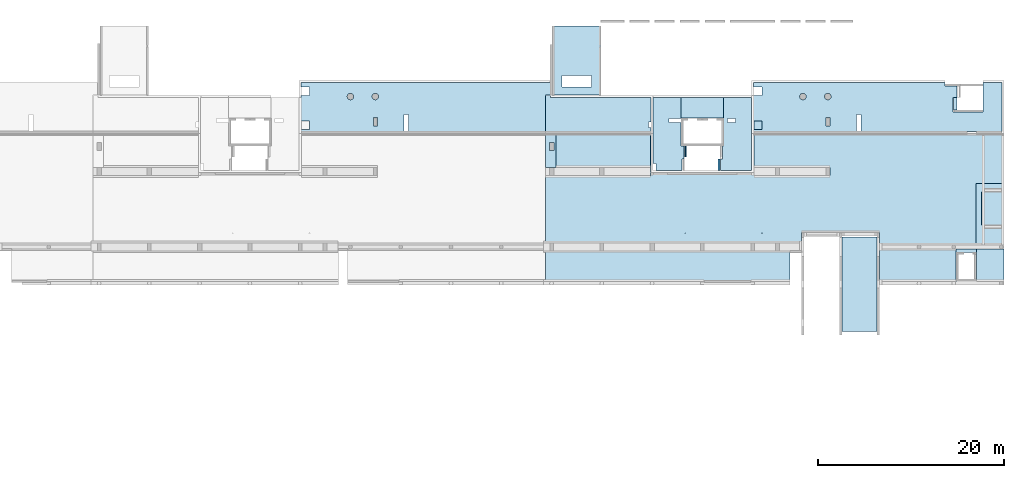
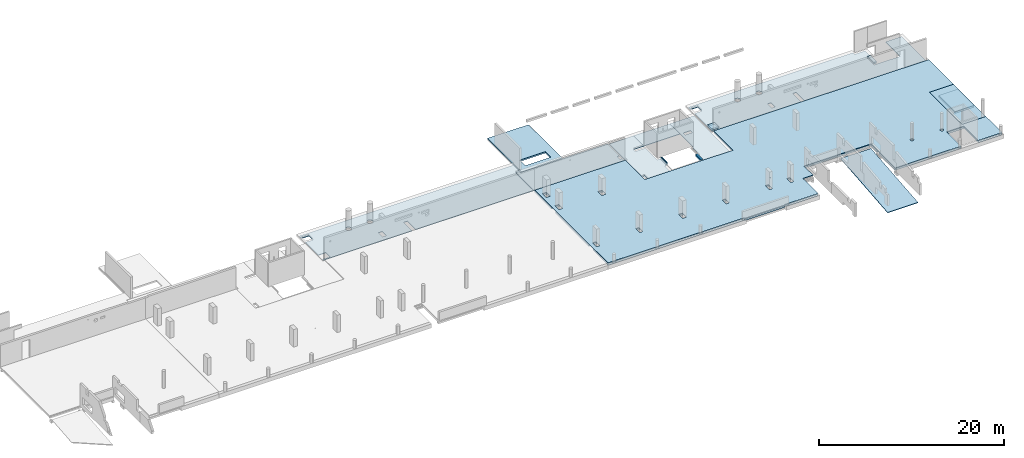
# One storey, part 5 of 10: 23 slabs, 25 openings.
"""IFC2X3 building model written with IfcOpenShell, lengths in millimetres."""

from ifc_helpers import new_model, entity, si_unit, converted_unit, derived_unit, direction, frame, frame_2d, origin, origin_2d_with_axis, place, context, subcontext, project, spatial, polyline, rectangle, circle, outline, extrude, clip, halfspace, material, layer, layer_set, layer_usage, element, save


model = new_model("IFC2X3")

# Units and contexts
model_context = context("Model", 3, precision=0.01, world=origin(), true_north=direction((6.12303176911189e-17, 1.0)))
body_context = subcontext(model_context, "Body", "Model", "MODEL_VIEW")
ifc_project = project(units=[si_unit("LENGTHUNIT", "METRE", prefix="MILLI"), si_unit("AREAUNIT", "SQUARE_METRE"), si_unit("VOLUMEUNIT", "CUBIC_METRE"), converted_unit("PLANEANGLEUNIT", "DEGREE", entity("IfcRatioMeasure", 0.0174532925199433), si_unit("PLANEANGLEUNIT", "RADIAN"), dimensions=[0, 0, 0, 0, 0, 0, 0]), si_unit("MASSUNIT", "GRAM", prefix="KILO"), derived_unit("MASSDENSITYUNIT", [(si_unit("MASSUNIT", "GRAM", prefix="KILO"), 1), (si_unit("LENGTHUNIT", "METRE"), -3)]), si_unit("TIMEUNIT", "SECOND"), si_unit("FREQUENCYUNIT", "HERTZ"), si_unit("THERMODYNAMICTEMPERATUREUNIT", "DEGREE_CELSIUS"), derived_unit("THERMALTRANSMITTANCEUNIT", [(si_unit("MASSUNIT", "GRAM", prefix="KILO"), 1), (si_unit("THERMODYNAMICTEMPERATUREUNIT", "KELVIN"), -1), (si_unit("TIMEUNIT", "SECOND"), -3)]), derived_unit("VOLUMETRICFLOWRATEUNIT", [(si_unit("LENGTHUNIT", "METRE"), 3), (si_unit("TIMEUNIT", "SECOND"), -1)]), si_unit("ELECTRICCURRENTUNIT", "AMPERE"), si_unit("ELECTRICVOLTAGEUNIT", "VOLT"), si_unit("POWERUNIT", "WATT"), si_unit("FORCEUNIT", "NEWTON", prefix="KILO"), si_unit("ILLUMINANCEUNIT", "LUX"), si_unit("LUMINOUSFLUXUNIT", "LUMEN"), si_unit("LUMINOUSINTENSITYUNIT", "CANDELA"), derived_unit("USERDEFINED", [(si_unit("MASSUNIT", "GRAM", prefix="KILO"), -1), (si_unit("LENGTHUNIT", "METRE"), -2), (si_unit("TIMEUNIT", "SECOND"), 3), (si_unit("LUMINOUSFLUXUNIT", "LUMEN"), 1)]), derived_unit("LINEARVELOCITYUNIT", [(si_unit("LENGTHUNIT", "METRE"), 1), (si_unit("TIMEUNIT", "SECOND"), -1)]), si_unit("PRESSUREUNIT", "PASCAL"), derived_unit("USERDEFINED", [(si_unit("LENGTHUNIT", "METRE"), -2), (si_unit("MASSUNIT", "GRAM", prefix="KILO"), 1), (si_unit("TIMEUNIT", "SECOND"), -2)])], contexts=[model_context])

# Site, building, storey
site_placement = place(None, origin())
site = spatial("IfcSite", under=ifc_project, at=site_placement, Name="Default", CompositionType="ELEMENT")
building_placement = place(site_placement, origin())
building = spatial("IfcBuilding", under=site, at=building_placement, Name="niet gebruiken", CompositionType="ELEMENT")
storey_placement = place(building_placement, frame((0.0, 0.0, 9410.0)))
storey = spatial("IfcBuildingStorey", under=building, at=storey_placement, Name="02b tweede tussenverdieping", CompositionType="ELEMENT", Elevation=9409.99999999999)

# Slab
ifc_material_1 = material(Name="NLRS_f2_beton prefab")
ifc_layer_1 = layer(ifc_material_1, 255.0)
ifc_layer_set_1 = layer_set([ifc_layer_1], Name="Floor:NLRS_23.21_FL_kanaalplaat d=255_gen")
ifc_layer_usage_1 = layer_usage(ifc_layer_set_1, "AXIS3", "POSITIVE", 0.0)
slab_1_placement = place(storey_placement, origin())
element("IfcSlab", 1, at=slab_1_placement, inside=storey, material=ifc_layer_usage_1, Name="Floor:NLRS_23.21_FL_kanaalplaat d=255_gen", ObjectType="Floor:NLRS_23.21_FL_kanaalplaat d=255_gen", PredefinedType="FLOOR", context=body_context, shape_type="SweptSolid", body=[
    extrude(outline(polyline([(-791.250000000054, -16323.7500000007), (2448.74999999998, -16323.7500000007), (2448.74999999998, 9911.25000000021), (-791.250000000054, 9911.25000000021), (-791.250000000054, 5686.24999999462), (-866.249999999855, 5686.24999999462), (-866.249999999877, 726.250000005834), (-791.250000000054, 726.250000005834), (-791.250000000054, -16323.7500000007)])), frame((91293.7499999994, 25987.25, -70.0), z_axis=(0.0, 0.0, -1.0), x_axis=(0.0, 1.0, 0.0)), (0.0, 0.0, 1.0), 255.000000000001),
])

# Slab, openings
ifc_material_2 = material(Name="NLRS_f2_beton ihwg")
ifc_layer_2 = layer(ifc_material_2, 70.0)
ifc_layer_set_2 = layer_set([ifc_layer_2], Name="Floor:NLRS_23.21_FL_druklaag d=70 - gevlinderd en ingestrooid_gen")
ifc_layer_usage_2 = layer_usage(ifc_layer_set_2, "AXIS3", "POSITIVE", 0.0)
slab_2_placement = place(storey_placement, frame((74970.0, 25101.0, -70.0)))
slab_2 = element("IfcSlab", 2, at=slab_2_placement, inside=storey, material=ifc_layer_usage_2, Name="Floor:NLRS_23.21_FL_druklaag d=70 - gevlinderd en ingestrooid_gen", ObjectType="Floor:NLRS_23.21_FL_druklaag d=70 - gevlinderd en ingestrooid_gen", PredefinedType="FLOOR", context=body_context, shape_type="SweptSolid", body=[
    extrude(outline(polyline([(24615.0, -7885.0), (24615.0, 7980.0), (13310.0, 7980.0), (13310.0, 3775.0), (2260.0, 3775.0), (2260.0, 7980.0), (-24615.0, 7980.0), (-24615.0, 2624.0), (-21615.0, 2624.0), (-21615.0, -4400.0), (-24615.0, -4400.0), (-24615.0, -7905.0), (-21640.0, -7905.0), (-21640.0, -4775.0), (-19490.0, -4775.0), (-19490.0, -7905.0), (-11260.0, -7905.0), (-11260.0, -2655.0), (-2890.0, -2655.0), (-2890.0, -4625.0), (-1620.0, -4625.0), (-1620.0, -7905.0), (2585.0, -7905.0), (2585.0, -7980.0), (7585.0, -7980.0), (7585.0, -7885.0), (24615.0, -7885.0)])), frame((24615.0, 7980.0, 70.0), z_axis=(0.0, 0.0, -1.0), x_axis=(-1.0, 0.0, 0.0)), (0.0, 0.0, 1.0), 70.0000000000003),
])
opening_1_placement = place(storey_placement, frame((74970.0, 25101.0, -70.0)))
element("IfcOpeningElement", 3, at=opening_1_placement, cuts=slab_2, ObjectType="Opening", context=body_context, shape_type="SweptSolid", body=[
    extrude(circle(Radius=37.5, at=frame_2d((1385.0, -2725.0), x_axis=(1.0, 0.0))), frame((24615.0, 7980.0, 70.0), z_axis=(0.0, 0.0, -1.0), x_axis=(-1.0, 0.0, 0.0)), (0.0, 0.0, 1.0), 70.0000000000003),
])
opening_2_placement = place(storey_placement, frame((74970.0, 25101.0, -70.0)))
element("IfcOpeningElement", 4, at=opening_2_placement, cuts=slab_2, ObjectType="Opening", context=body_context, shape_type="SweptSolid", body=[
    extrude(circle(Radius=37.5, at=frame_2d((9635.0, -2725.0), x_axis=(1.0, 0.0))), frame((24615.0, 7980.0, 70.0), z_axis=(0.0, 0.0, -1.0), x_axis=(-1.0, 0.0, 0.0)), (0.0, 0.0, 1.0), 70.0000000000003),
])
opening_3_placement = place(slab_2_placement, frame((655.0, 14555.0, 70.0)))
element("IfcOpeningElement", 5, at=opening_3_placement, cuts=slab_2, Name="Floor:NLRS_23.21_FL_druklaag d=70 - gevlinderd en ingestrooid_gen:2", ObjectType="Opening", context=body_context, shape_type="SweptSolid", body=[
    extrude(rectangle(XDim=849.999999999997, YDim=499.999999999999, at=origin_2d_with_axis()), frame((0.0, 0.0, 0.0), z_axis=(0.0, 0.0, -1.0), x_axis=(0.0, -1.0, 0.0)), (0.0, 0.0, 1.0), 70.0000000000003),
])
opening_4_placement = place(slab_2_placement, frame((655.0, 11880.0, 70.0)))
element("IfcOpeningElement", 6, at=opening_4_placement, cuts=slab_2, Name="Floor:NLRS_23.21_FL_druklaag d=70 - gevlinderd en ingestrooid_gen:3", ObjectType="Opening", context=body_context, shape_type="SweptSolid", body=[
    extrude(rectangle(XDim=850.000000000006, YDim=499.999999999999, at=origin_2d_with_axis()), frame((0.0, 0.0, 0.0), z_axis=(0.0, 0.0, -1.0), x_axis=(0.0, -1.0, 0.0)), (0.0, 0.0, 1.0), 70.0000000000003),
])
opening_5_placement = place(slab_2_placement, frame((6030.0, 11880.0, 70.0)))
element("IfcOpeningElement", 7, at=opening_5_placement, cuts=slab_2, Name="Floor:NLRS_23.21_FL_druklaag d=70 - gevlinderd en ingestrooid_gen:4", ObjectType="Opening", context=body_context, shape_type="SweptSolid", body=[
    extrude(rectangle(XDim=850.000000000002, YDim=500.000000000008, at=origin_2d_with_axis()), frame((0.0, 0.0, 0.0), z_axis=(0.0, 0.0, -1.0), x_axis=(0.0, -1.0, 0.0)), (0.0, 0.0, 1.0), 70.0000000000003),
])
opening_6_placement = place(slab_2_placement, frame((655.0, 3780.0, 70.0)))
element("IfcOpeningElement", 8, at=opening_6_placement, cuts=slab_2, Name="Floor:NLRS_23.21_FL_druklaag d=70 - gevlinderd en ingestrooid_gen:5", ObjectType="Opening", context=body_context, shape_type="SweptSolid", body=[
    extrude(rectangle(XDim=850.000000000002, YDim=399.999999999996, at=origin_2d_with_axis()), frame((0.0, 0.0, 0.0), z_axis=(0.0, 0.0, -1.0), x_axis=(0.0, -1.0, 0.0)), (0.0, 0.0, 1.0), 70.0000000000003),
])
opening_7_placement = place(slab_2_placement, frame((6030.0, 3780.0, 70.0)))
element("IfcOpeningElement", 9, at=opening_7_placement, cuts=slab_2, Name="Floor:NLRS_23.21_FL_druklaag d=70 - gevlinderd en ingestrooid_gen:6", ObjectType="Opening", context=body_context, shape_type="SweptSolid", body=[
    extrude(rectangle(XDim=850.000000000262, YDim=400.000000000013, at=origin_2d_with_axis()), frame((0.0, 0.0, 0.0), z_axis=(0.0, 0.0, 1.0), x_axis=(0.0, -1.0, 0.0)), (0.0, 0.0, -1.0), 70.0000000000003),
])
opening_8_placement = place(slab_2_placement, frame((11430.0, 3780.0, 70.0)))
element("IfcOpeningElement", 10, at=opening_8_placement, cuts=slab_2, Name="Floor:NLRS_23.21_FL_druklaag d=70 - gevlinderd en ingestrooid_gen:7", ObjectType="Opening", context=body_context, shape_type="SweptSolid", body=[
    extrude(rectangle(XDim=849.999999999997, YDim=500.000000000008, at=origin_2d_with_axis()), frame((0.0, 0.0, 0.0), z_axis=(0.0, 0.0, -1.0), x_axis=(0.0, -1.0, 0.0)), (0.0, 0.0, 1.0), 70.0000000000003),
])
opening_9_placement = place(slab_2_placement, frame((16830.0, 3780.0, 70.0)))
element("IfcOpeningElement", 11, at=opening_9_placement, cuts=slab_2, Name="Floor:NLRS_23.21_FL_druklaag d=70 - gevlinderd en ingestrooid_gen:8", ObjectType="Opening", context=body_context, shape_type="SweptSolid", body=[
    extrude(rectangle(XDim=849.999999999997, YDim=400.000000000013, at=origin_2d_with_axis()), frame((0.0, 0.0, 0.0), z_axis=(0.0, 0.0, -1.0), x_axis=(0.0, -1.0, 0.0)), (0.0, 0.0, 1.0), 70.0000000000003),
])
opening_10_placement = place(slab_2_placement, frame((22230.0, 3780.0, 70.0)))
element("IfcOpeningElement", 12, at=opening_10_placement, cuts=slab_2, Name="Floor:NLRS_23.21_FL_druklaag d=70 - gevlinderd en ingestrooid_gen:9", ObjectType="Opening", context=body_context, shape_type="SweptSolid", body=[
    extrude(rectangle(XDim=850.00000000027, YDim=399.999999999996, at=origin_2d_with_axis()), frame((0.0, 0.0, 0.0), z_axis=(0.0, 0.0, 1.0), x_axis=(0.0, -1.0, 0.0)), (0.0, 0.0, -1.0), 70.0000000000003),
])
opening_11_placement = place(slab_2_placement, frame((24905.0, 3780.0, 70.0)))
element("IfcOpeningElement", 13, at=opening_11_placement, cuts=slab_2, Name="Floor:NLRS_23.21_FL_druklaag d=70 - gevlinderd en ingestrooid_gen:10", ObjectType="Opening", context=body_context, shape_type="SweptSolid", body=[
    extrude(rectangle(XDim=849.999999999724, YDim=399.999999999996, at=origin_2d_with_axis()), frame((0.0, 0.0, 0.0), z_axis=(0.0, 0.0, -1.0), x_axis=(0.0, -1.0, 0.0)), (0.0, 0.0, 1.0), 70.0000000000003),
])
opening_12_placement = place(slab_2_placement, frame((43830.0, 3780.0, 70.0)))
element("IfcOpeningElement", 14, at=opening_12_placement, cuts=slab_2, Name="Floor:NLRS_23.21_FL_druklaag d=70 - gevlinderd en ingestrooid_gen:11", ObjectType="Opening", context=body_context, shape_type="SweptSolid", body=[
    extrude(circle(Radius=200.0, at=origin_2d_with_axis()), frame((0.0, 0.0, 0.0), z_axis=(0.0, 0.0, -1.0), x_axis=(1.0, 0.0, 0.0)), (0.0, 0.0, 1.0), 70.0000000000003),
])
opening_13_placement = place(slab_2_placement, frame((40105.0, 3780.0, 70.0)))
element("IfcOpeningElement", 15, at=opening_13_placement, cuts=slab_2, Name="Floor:NLRS_23.21_FL_druklaag d=70 - gevlinderd en ingestrooid_gen:12", ObjectType="Opening", context=body_context, shape_type="SweptSolid", body=[
    extrude(circle(Radius=200.0, at=origin_2d_with_axis()), frame((0.0, 0.0, 0.0), z_axis=(0.0, 0.0, -1.0), x_axis=(1.0, 0.0, 0.0)), (0.0, 0.0, 1.0), 70.0000000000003),
])

# Slab
ifc_layer_usage_3 = layer_usage(ifc_layer_set_1, "AXIS3", "POSITIVE", 0.0)
slab_3_placement = place(storey_placement, frame((74970.0, 29101.0, -325.0)))
element("IfcSlab", 16, at=slab_3_placement, inside=storey, material=ifc_layer_usage_3, Name="Floor:NLRS_23.21_FL_kanaalplaat d=255_gen", ObjectType="Floor:NLRS_23.21_FL_kanaalplaat d=255_gen", PredefinedType="FLOOR", context=body_context, shape_type="SweptSolid", body=[
    extrude(rectangle(XDim=10200.0000000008, YDim=3615.00000000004, at=frame_2d((18430.0, 4162.49999999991), x_axis=(-1.0, 0.0))), frame((24615.0, 5970.0, 255.0), z_axis=(0.0, 0.0, -1.0), x_axis=(-1.0, 0.0, 0.0)), (0.0, 0.0, 1.0), 255.000000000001),
])

# Slab, openings
slab_4_placement = place(storey_placement, frame((74970.0, 29101.0, -325.0)))
slab_4 = element("IfcSlab", 17, at=slab_4_placement, inside=storey, material=ifc_layer_usage_3, Name="Floor:NLRS_23.21_FL_kanaalplaat d=255_gen:2", ObjectType="Floor:NLRS_23.21_FL_kanaalplaat d=255_gen", PredefinedType="FLOOR", context=body_context, shape_type="SweptSolid", body=[
    extrude(outline(polyline([(-2870.0, -5745.0), (24615.0, -5745.0), (24615.0, 1465.0), (13310.0, 1465.0), (13310.0, 1765.0), (2260.0, 1765.0), (2260.0, 1465.0), (-5934.86878208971, 1465.0), (-5934.86878208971, 2355.0), (2240.0, 2355.0), (2240.0, 5970.0), (-24615.0, 5970.0), (-24615.0, 34.0), (-22215.0, 34.0), (-22215.0, -3926.0), (-24615.0, -3926.0), (-24615.0, -5970.0), (-11260.0, -5970.0), (-11260.0, -4615.0), (-2870.0, -4615.0), (-2870.0, -5745.0)])), frame((24615.0, 5970.0, 255.0), z_axis=(0.0, 0.0, -1.0), x_axis=(-1.0, 0.0, 0.0)), (0.0, 0.0, 1.0), 255.000000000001),
])
opening_14_placement = place(storey_placement, frame((74970.0, 29101.0, -325.0)))
element("IfcOpeningElement", 18, at=opening_14_placement, cuts=slab_4, ObjectType="Opening", context=body_context, shape_type="SweptSolid", body=[
    extrude(circle(Radius=37.5, at=frame_2d((1385.0, -4715.0), x_axis=(1.0, 0.0))), frame((24615.0, 5970.0, 255.0), z_axis=(0.0, 0.0, -1.0), x_axis=(-1.0, 0.0, 0.0)), (0.0, 0.0, 1.0), 255.000000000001),
])
opening_15_placement = place(storey_placement, frame((74970.0, 29101.0, -325.0)))
element("IfcOpeningElement", 19, at=opening_15_placement, cuts=slab_4, ObjectType="Opening", context=body_context, shape_type="SweptSolid", body=[
    extrude(circle(Radius=37.5, at=frame_2d((9635.0, -4715.0), x_axis=(1.0, 0.0))), frame((24615.0, 5970.0, 255.0), z_axis=(0.0, 0.0, -1.0), x_axis=(-1.0, 0.0, 0.0)), (0.0, 0.0, 1.0), 255.000000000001),
])

# Slabs
ifc_layer_usage_4 = layer_usage(ifc_layer_set_1, "AXIS3", "POSITIVE", 0.0)
slab_5_placement = place(storey_placement, frame((110845.0, 25201.0, -325.0)))
element("IfcSlab", 20, at=slab_5_placement, inside=storey, material=ifc_layer_usage_4, Name="Floor:NLRS_23.21_FL_kanaalplaat d=255_gen", ObjectType="Floor:NLRS_23.21_FL_kanaalplaat d=255_gen", PredefinedType="FLOOR", context=body_context, shape_type="SweptSolid", body=[
    extrude(rectangle(XDim=3460.00000000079, YDim=8210.00000000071, at=frame_2d((2572.49999999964, 0.0), x_axis=(0.0, 1.0))), frame((6677.5, 1730.0, 255.0), z_axis=(0.0, 0.0, -1.0), x_axis=(-1.0, 0.0, 0.0)), (0.0, 0.0, 1.0), 255.000000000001),
])
slab_6_placement = place(storey_placement, frame((110845.0, 25201.0, -325.0)))
element("IfcSlab", 21, at=slab_6_placement, inside=storey, material=ifc_layer_usage_4, Name="Floor:NLRS_23.21_FL_kanaalplaat d=255_gen:2", ObjectType="Floor:NLRS_23.21_FL_kanaalplaat d=255_gen", PredefinedType="FLOOR", context=body_context, shape_type="SweptSolid", body=[
    extrude(rectangle(XDim=2954.99999999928, YDim=3460.00000000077, at=frame_2d((-5200.0, 0.0), x_axis=(1.0, 0.0))), frame((6677.5, 1730.0, 255.0), z_axis=(0.0, 0.0, -1.0), x_axis=(-1.0, 0.0, 0.0)), (0.0, 0.0, 1.0), 255.000000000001),
])
ifc_layer_3 = layer(ifc_material_2, 260.0)
ifc_layer_set_3 = layer_set([ifc_layer_3], Name="Floor:NLRS_23.21_FL_beton ihwg d=260_gen")
ifc_layer_usage_5 = layer_usage(ifc_layer_set_3, "AXIS3", "POSITIVE", 0.0)
slab_7_placement = place(storey_placement, origin())
element("IfcSlab", 22, at=slab_7_placement, inside=storey, material=ifc_layer_usage_5, Name="Floor:NLRS_23.21_FL_beton ihwg d=260_gen", ObjectType="Floor:NLRS_23.21_FL_beton ihwg d=260_gen", PredefinedType="FLOOR", context=body_context, shape_type="SweptSolid", body=[
    extrude(rectangle(XDim=374.999999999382, YDim=2190.0, at=frame_2d((0.0, -8.64019966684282e-12), x_axis=(1.0, 0.0))), frame((120150.0, 28493.5000000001, -70.0), z_axis=(0.0, 0.0, -1.0), x_axis=(0.0, 1.0, 0.0)), (0.0, 0.0, 1.0), 260.0),
])
ifc_layer_4 = layer(ifc_material_2, 200.0)
ifc_layer_5 = layer(ifc_material_1, 50.0)
ifc_layer_set_4 = layer_set([ifc_layer_4, ifc_layer_5], Name="Floor:NLRS_23.21_FL_breedplaat d=50/250_gen")
ifc_layer_usage_6 = layer_usage(ifc_layer_set_4, "AXIS3", "POSITIVE", 0.0)
slab_8_placement = place(storey_placement, origin())
element("IfcSlab", 23, at=slab_8_placement, inside=storey, material=ifc_layer_usage_6, Name="Floor:NLRS_23.21_FL_breedplaat d=50/250_gen", ObjectType="Floor:NLRS_23.21_FL_breedplaat d=50/250_gen", PredefinedType="FLOOR", context=body_context, shape_type="SweptSolid", body=[
    extrude(rectangle(XDim=1349.99999999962, YDim=339.999999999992, at=frame_2d((-4.32009983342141e-12, 0.0), x_axis=(1.0, 0.0))), frame((118970.0, 44251.0, 0.0), z_axis=(0.0, 0.0, -1.0), x_axis=(0.0, 1.0, 0.0)), (0.0, 0.0, 1.0), 249.999999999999),
])
ifc_layer_6 = layer(ifc_material_1, 70.0)
ifc_layer_set_5 = layer_set([ifc_layer_6], Name="Floor:NLRS_23.21_FL_breedplaatschil d=70_gen")
ifc_layer_usage_7 = layer_usage(ifc_layer_set_5, "AXIS3", "POSITIVE", 0.0)
slab_9_placement = place(storey_placement, frame((86505.0, 37086.0, -340.0)))
element("IfcSlab", 24, at=slab_9_placement, inside=storey, material=ifc_layer_usage_7, Name="Floor:NLRS_23.21_FL_breedplaatschil d=70_gen", ObjectType="Floor:NLRS_23.21_FL_breedplaatschil d=70_gen", PredefinedType="FLOOR", context=body_context, shape_type="SweptSolid", body=[
    extrude(outline(polyline([(2295.00015089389, 1250.0), (2295.00015089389, -1280.0), (1950.0, -1280.0), (1950.0, -2700.0), (2200.00021676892, -2700.0), (2200.00021676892, -3920.0), (4975.0, -3920.0), (4975.0, -3180.0), (5295.0, -3180.0), (5295.0, 3920.0), (2275.0001508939, 3920.0), (2275.0001508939, 1690.0), (3572.50015089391, 1690.0), (3572.50015089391, 1250.0), (2295.00015089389, 1250.0)])), frame((5295.0, 3920.0, 70.0), z_axis=(0.0, 0.0, -1.0), x_axis=(-1.0, 0.0, 0.0)), (0.0, 0.0, 1.0), 70.0000000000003),
])

# Slab, opening
slab_10_placement = place(storey_placement, frame((86505.0, 37086.0, -340.0)))
slab_10 = element("IfcSlab", 25, at=slab_10_placement, inside=storey, material=ifc_layer_usage_7, Name="Floor:NLRS_23.21_FL_breedplaatschil d=70_gen:2", ObjectType="Floor:NLRS_23.21_FL_breedplaatschil d=70_gen", PredefinedType="FLOOR", context=body_context, shape_type="SweptSolid", body=[
    extrude(outline(polyline([(-2274.99984910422, 1690.0), (-2274.99984910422, 3920.0), (-5295.0, 3920.0), (-5295.0, -3920.0), (-1949.99978323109, -3920.0), (-1949.99978323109, -2700.0), (-2170.0, -2700.0), (-2170.0, -1280.0), (-2294.99984910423, -1280.0), (-2294.99984910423, 1690.0), (-2274.99984910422, 1690.0)])), frame((5295.0, 3920.0, 70.0), z_axis=(0.0, 0.0, -1.0), x_axis=(-1.0, 0.0, 0.0)), (0.0, 0.0, 1.0), 70.0000000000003),
])
opening_16_placement = place(slab_9_placement, frame((8425.0, 5390.0, 70.0)))
element("IfcOpeningElement", 26, at=opening_16_placement, cuts=slab_10, Name="Floor:NLRS_23.21_FL_breedplaatschil d=70_gen:2", ObjectType="Opening", context=body_context, shape_type="SweptSolid", body=[
    extrude(rectangle(XDim=900.000000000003, YDim=450.000000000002, at=origin_2d_with_axis()), frame((0.0, 0.0, 0.0), z_axis=(0.0, 0.0, -1.0), x_axis=(-1.0, 0.0, 0.0)), (0.0, 0.0, 1.0), 70.0000000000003),
])

# Slab
ifc_layer_usage_8 = layer_usage(ifc_layer_set_5, "AXIS3", "POSITIVE", 0.0)
slab_11_placement = place(storey_placement, origin())
element("IfcSlab", 27, at=slab_11_placement, inside=storey, material=ifc_layer_usage_8, Name="Floor:NLRS_23.21_FL_breedplaatschil d=70_gen", ObjectType="Floor:NLRS_23.21_FL_breedplaatschil d=70_gen", PredefinedType="FLOOR", context=body_context, shape_type="SweptSolid", body=[
    extrude(rectangle(XDim=2209.99999999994, YDim=4549.9999999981, at=frame_2d((4.32009983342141e-12, 0.0), x_axis=(1.0, 0.0))), frame((91800.0, 43821.0, -270.0), z_axis=(0.0, 0.0, -1.0), x_axis=(0.0, 1.0, 0.0)), (0.0, 0.0, 1.0), 70.0000000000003),
])

# Slab, openings
ifc_layer_usage_9 = layer_usage(ifc_layer_set_5, "AXIS3", "POSITIVE", 0.0)
slab_12_placement = place(storey_placement, frame((48705.0, 41291.0, -250.0)))
slab_12 = element("IfcSlab", 28, at=slab_12_placement, inside=storey, material=ifc_layer_usage_9, Name="Floor:NLRS_23.21_FL_breedplaatschil d=70_gen", ObjectType="Floor:NLRS_23.21_FL_breedplaatschil d=70_gen", PredefinedType="FLOOR", context=body_context, shape_type="SweptSolid", body=[
    extrude(outline(polyline([(-13382.5000000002, 2612.4999999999), (-13382.5000000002, 1272.49999999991), (-12862.4999999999, 1272.49999999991), (-12862.4999999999, -2612.4999999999), (1862.49999999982, -2612.4999999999), (1862.49999999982, -792.499999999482), (2312.49999999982, -792.499999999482), (2312.49999999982, -2612.4999999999), (13382.5000000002, -2612.4999999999), (13382.5000000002, -2417.49999999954), (12462.4999999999, -2417.49999999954), (12462.4999999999, -1517.49999999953), (13382.5000000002, -1517.49999999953), (13382.5000000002, 1252.50000000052), (12462.5000000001, 1252.50000000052), (12462.5000000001, 2152.50000000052), (13382.5000000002, 2152.50000000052), (13382.5000000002, 2612.4999999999), (-13382.5000000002, 2612.4999999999)])), frame((13382.5000000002, 2612.4999999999, 70.0), z_axis=(0.0, 0.0, -1.0), x_axis=(-1.0, 0.0, 0.0)), (0.0, 0.0, 1.0), 70.0000000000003),
])
opening_17_placement = place(slab_12_placement, frame((7970.0, 1040.0, 70.0)))
element("IfcOpeningElement", 29, at=opening_17_placement, cuts=slab_12, Name="Floor:NLRS_23.21_FL_breedplaatschil d=70_gen:2", ObjectType="Opening", context=body_context, shape_type="SweptSolid", body=[
    extrude(rectangle(XDim=440.000000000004, YDim=890.000000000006, at=origin_2d_with_axis()), frame((0.0, 0.0, 0.0), z_axis=(0.0, 0.0, -1.0), x_axis=(1.0, 0.0, 0.0)), (0.0, 0.0, 1.0), 70.0000000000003),
])
opening_18_placement = place(slab_12_placement, frame((7970.0, 3740.0, 70.0)))
element("IfcOpeningElement", 30, at=opening_18_placement, cuts=slab_12, Name="Floor:NLRS_23.21_FL_breedplaatschil d=70_gen:3", ObjectType="Opening", context=body_context, shape_type="SweptSolid", body=[
    extrude(circle(Radius=345.0, at=origin_2d_with_axis()), frame((0.0, 0.0, 0.0), z_axis=(0.0, 0.0, -1.0), x_axis=(1.0, 0.0, 0.0)), (0.0, 0.0, 1.0), 70.0000000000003),
])
opening_19_placement = place(slab_12_placement, frame((5295.0, 3740.0, 70.0)))
element("IfcOpeningElement", 31, at=opening_19_placement, cuts=slab_12, Name="Floor:NLRS_23.21_FL_breedplaatschil d=70_gen:4", ObjectType="Opening", context=body_context, shape_type="SweptSolid", body=[
    extrude(circle(Radius=345.0, at=origin_2d_with_axis()), frame((0.0, 0.0, 0.0), z_axis=(0.0, 0.0, -1.0), x_axis=(1.0, 0.0, 0.0)), (0.0, 0.0, 1.0), 70.0000000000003),
])

# Slab, opening
ifc_layer_usage_10 = layer_usage(ifc_layer_set_5, "AXIS3", "POSITIVE", 0.0)
slab_13_placement = place(storey_placement, frame((74970.0, 41291.0, -250.0)))
slab_13 = element("IfcSlab", 32, at=slab_13_placement, inside=storey, material=ifc_layer_usage_10, Name="Floor:NLRS_23.21_FL_breedplaatschil d=70_gen", ObjectType="Floor:NLRS_23.21_FL_breedplaatschil d=70_gen", PredefinedType="FLOOR", context=body_context, shape_type="SweptSolid", body=[
    extrude(outline(polyline([(5662.49999999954, 1932.49999999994), (5162.49999999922, 1932.49999999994), (5162.49999999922, 1702.49999999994), (-5662.49999999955, 1702.49999999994), (-5662.49999999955, -1932.49999999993), (5662.49999999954, -1932.49999999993), (5662.49999999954, 1932.49999999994)])), frame((5662.49999999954, 1932.49999999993, 70.0), z_axis=(0.0, 0.0, -1.0), x_axis=(-1.0, 0.0, 0.0)), (0.0, 0.0, 1.0), 70.0000000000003),
])
opening_20_placement = place(slab_13_placement, origin())
element("IfcOpeningElement", 33, at=opening_20_placement, cuts=slab_13, ObjectType="Opening", context=body_context, shape_type="SweptSolid", body=[
    extrude(rectangle(XDim=259.999999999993, YDim=614.999999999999, at=origin_2d_with_axis()), frame((11174.9995330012, 720.099707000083, 0.0), z_axis=(0.0, 0.0, 1.0), x_axis=(-1.0, 0.0, 0.0)), (0.0, 0.0, 1.0), 249.999999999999),
])

# Slab, openings
ifc_layer_usage_11 = layer_usage(ifc_layer_set_5, "AXIS3", "POSITIVE", 0.0)
slab_14_placement = place(storey_placement, frame((97305.0, 41291.0, -250.0)))
slab_14 = element("IfcSlab", 34, at=slab_14_placement, inside=storey, material=ifc_layer_usage_11, Name="Floor:NLRS_23.21_FL_breedplaatschil d=70_gen", ObjectType="Floor:NLRS_23.21_FL_breedplaatschil d=70_gen", PredefinedType="FLOOR", context=body_context, shape_type="SweptSolid", body=[
    extrude(outline(polyline([(-7222.49999999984, 2612.4999999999), (-7222.49999999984, 2252.50000000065), (-8537.50000000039, 2252.50000000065), (-8537.50000000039, 1022.50000000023), (-8072.49999999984, 1022.50000000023), (-8072.49999999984, -527.49999999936), (-11312.4999999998, -527.49999999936), (-11312.4999999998, 2612.4999999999), (-13332.5000000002, 2612.4999999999), (-13332.5000000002, -2612.4999999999), (1812.49999999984, -2612.4999999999), (1812.49999999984, -792.499999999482), (2262.49999999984, -792.499999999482), (2262.49999999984, -2612.4999999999), (13332.5000000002, -2612.4999999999), (13332.5000000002, -2417.49999999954), (12412.4999999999, -2417.49999999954), (12412.4999999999, -1517.49999999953), (13332.5000000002, -1517.49999999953), (13332.5000000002, 1252.50000000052), (12412.5000000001, 1252.50000000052), (12412.5000000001, 2152.50000000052), (13332.5000000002, 2152.50000000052), (13332.5000000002, 2612.4999999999), (-7222.49999999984, 2612.4999999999)])), frame((13332.5000000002, 2612.4999999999, 70.0), z_axis=(0.0, 0.0, -1.0), x_axis=(-1.0, 0.0, 0.0)), (0.0, 0.0, 1.0), 70.0000000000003),
])
opening_21_placement = place(slab_14_placement, frame((7970.0, 1040.0, 70.0)))
element("IfcOpeningElement", 35, at=opening_21_placement, cuts=slab_14, Name="Floor:NLRS_23.21_FL_breedplaatschil d=70_gen:2", ObjectType="Opening", context=body_context, shape_type="SweptSolid", body=[
    extrude(rectangle(XDim=440.000000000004, YDim=890.000000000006, at=origin_2d_with_axis()), frame((0.0, 0.0, 0.0), z_axis=(0.0, 0.0, -1.0), x_axis=(1.0, 0.0, 0.0)), (0.0, 0.0, 1.0), 70.0000000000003),
])
opening_22_placement = place(slab_14_placement, frame((7970.0, 3740.0, 70.0)))
element("IfcOpeningElement", 36, at=opening_22_placement, cuts=slab_14, Name="Floor:NLRS_23.21_FL_breedplaatschil d=70_gen:3", ObjectType="Opening", context=body_context, shape_type="SweptSolid", body=[
    extrude(circle(Radius=345.0, at=origin_2d_with_axis()), frame((0.0, 0.0, 0.0), z_axis=(0.0, 0.0, -1.0), x_axis=(1.0, 0.0, 0.0)), (0.0, 0.0, 1.0), 70.0000000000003),
])
opening_23_placement = place(slab_14_placement, frame((5295.0, 3740.0, 70.0)))
element("IfcOpeningElement", 37, at=opening_23_placement, cuts=slab_14, Name="Floor:NLRS_23.21_FL_breedplaatschil d=70_gen:4", ObjectType="Opening", context=body_context, shape_type="SweptSolid", body=[
    extrude(circle(Radius=345.0, at=origin_2d_with_axis()), frame((0.0, 0.0, 0.0), z_axis=(0.0, 0.0, -1.0), x_axis=(1.0, 0.0, 0.0)), (0.0, 0.0, 1.0), 70.0000000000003),
])

# Slabs
ifc_layer_usage_12 = layer_usage(ifc_layer_set_5, "AXIS3", "POSITIVE", 0.0)
slab_15_placement = place(storey_placement, origin())
element("IfcSlab", 38, at=slab_15_placement, inside=storey, material=ifc_layer_usage_12, Name="Floor:NLRS_23.21_FL_breedplaatschil d=70_gen", ObjectType="Floor:NLRS_23.21_FL_breedplaatschil d=70_gen", PredefinedType="FLOOR", context=body_context, shape_type="Clipping", body=[
    clip(clip(extrude(rectangle(XDim=10225.3974861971, YDim=3799.99999999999, at=frame_2d((0.0, -8.64019966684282e-12), x_axis=(1.0, 0.0))), frame((108675.0, 24876.0, -705.47714538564), z_axis=(0.0, 0.0941257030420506, -0.995560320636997), x_axis=(0.0, 0.995560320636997, 0.0941257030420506)), (-0.0941257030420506, 0.0, 0.995560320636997), 70.6257190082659), halfspace(frame((108675.0, 19425.4411853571, -1291.11486950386), z_axis=(0.0, 0.0941257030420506, -0.995560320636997), x_axis=(0.0, 0.995560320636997, 0.0941257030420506)), False)), halfspace(frame((108675.0, 19425.4411853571, -1220.80270604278), z_axis=(0.0, -0.0941257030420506, 0.995560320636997), x_axis=(0.0, -0.995560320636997, -0.0941257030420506)), False)),
])
ifc_layer_7 = layer(ifc_material_2, 250.0)
ifc_layer_set_6 = layer_set([ifc_layer_7], Name="Floor:NLRS_23.21_FL_breedplaat d=70/250_schil apart_gen")
ifc_layer_usage_13 = layer_usage(ifc_layer_set_6, "AXIS3", "POSITIVE", 0.0)
slab_16_placement = place(storey_placement, origin())
element("IfcSlab", 39, at=slab_16_placement, inside=storey, material=ifc_layer_usage_13, Name="Floor:NLRS_23.21_FL_breedplaat d=70/250_schil apart_gen", ObjectType="Floor:NLRS_23.21_FL_breedplaat d=70/250_schil apart_gen", PredefinedType="FLOOR", context=body_context, shape_type="SweptSolid", body=[
    extrude(outline(polyline([(-153.333333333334, -110.0), (96.6666666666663, -110.0), (96.6666666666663, 0.0), (56.6666666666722, 0.0), (56.6666666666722, 110.0), (-153.333333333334, 110.0), (-153.333333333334, -110.0)])), frame((90010.0, 38526.0, -186.666666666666), z_axis=(0.0, 1.0, 0.0), x_axis=(0.0, 0.0, 1.0)), (0.0, 0.0, 1.0), 1220.0),
])

# Slab, opening
ifc_layer_8 = layer(ifc_material_1, 200.0)
ifc_layer_set_7 = layer_set([ifc_layer_8], Name="Floor:NLRS_23.21_FL_kanaalplaat d=200_gen")
ifc_layer_usage_14 = layer_usage(ifc_layer_set_7, "AXIS3", "POSITIVE", 0.0)
slab_17_placement = place(storey_placement, frame((75735.0, 45176.0, -610.0)))
slab_17 = element("IfcSlab", 40, at=slab_17_placement, inside=storey, material=ifc_layer_usage_14, Name="Floor:NLRS_23.21_FL_kanaalplaat d=200_gen", ObjectType="Floor:NLRS_23.21_FL_kanaalplaat d=200_gen", PredefinedType="FLOOR", context=body_context, shape_type="SweptSolid", body=[
    extrude(rectangle(XDim=7420.00000000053, YDim=5130.00000000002, at=frame_2d((0.0, 0.0), x_axis=(0.0, -1.0))), frame((2565.0, 3710.0, 200.0), z_axis=(0.0, 0.0, -1.0), x_axis=(-1.0, 0.0, 0.0)), (0.0, 0.0, 1.0), 200.0),
])
opening_24_placement = place(slab_17_placement, frame((2565.0, 1500.0, 200.0)))
element("IfcOpeningElement", 41, at=opening_24_placement, cuts=slab_17, Name="Floor:NLRS_23.21_FL_kanaalplaat d=200_gen:2", ObjectType="Opening", context=body_context, shape_type="SweptSolid", body=[
    extrude(rectangle(XDim=1200.0, YDim=3200.0, at=origin_2d_with_axis()), frame((0.0, 0.0, 0.0), z_axis=(0.0, 0.0, 1.0), x_axis=(0.0, 1.0, 0.0)), (0.0, 0.0, -1.0), 200.0),
])

ifc_layer_9 = layer(ifc_material_2, 255.0)
ifc_layer_set_8 = layer_set([ifc_layer_9], Name="Floor:NLRS_23.21_FL_beton ihwg d=255_gen")
ifc_layer_usage_15 = layer_usage(ifc_layer_set_8, "AXIS3", "POSITIVE", 0.0)
slab_18_placement = place(storey_placement, frame((74970.0, 37426.0, -325.0)))
slab_18 = element("IfcSlab", 42, at=slab_18_placement, inside=storey, material=ifc_layer_usage_15, Name="Floor:NLRS_23.21_FL_beton ihwg d=255_gen", ObjectType="Floor:NLRS_23.21_FL_beton ihwg d=255_gen", PredefinedType="FLOOR", context=body_context, shape_type="SweptSolid", body=[
    extrude(rectangle(XDim=3634.99999999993, YDim=1085.00000000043, at=frame_2d((0.0, 0.0), x_axis=(0.0, -1.0))), frame((542.500000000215, 1817.49999999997, 255.0), z_axis=(0.0, 0.0, -1.0), x_axis=(-1.0, 0.0, 0.0)), (0.0, 0.0, 1.0), 255.000000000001),
])
opening_25_placement = place(slab_18_placement, frame((655.0, 2230.0, 255.0)))
element("IfcOpeningElement", 43, at=opening_25_placement, cuts=slab_18, Name="Floor:NLRS_23.21_FL_beton ihwg d=255_gen:2", ObjectType="Opening", context=body_context, shape_type="SweptSolid", body=[
    extrude(rectangle(XDim=849.999999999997, YDim=499.999999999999, at=origin_2d_with_axis()), frame((0.0, 0.0, 0.0), z_axis=(0.0, 0.0, -1.0), x_axis=(0.0, -1.0, 0.0)), (0.0, 0.0, 1.0), 255.000000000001),
])

# Slabs
ifc_layer_usage_16 = layer_usage(ifc_layer_set_1, "AXIS3", "POSITIVE", 0.0)
slab_19_placement = place(storey_placement, origin())
element("IfcSlab", 44, at=slab_19_placement, inside=storey, material=ifc_layer_usage_16, Name="Floor:NLRS_23.21_FL_kanaalplaat d=255_gen", ObjectType="Floor:NLRS_23.21_FL_kanaalplaat d=255_gen", PredefinedType="FLOOR", context=body_context, shape_type="SweptSolid", body=[
    extrude(rectangle(XDim=3570.0, YDim=2400.00000000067, at=frame_2d((-6.48014975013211e-12, 1.72803993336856e-11), x_axis=(1.0, 0.0))), frame((123000.0, 33000.0, -70.0), z_axis=(0.0, 0.0, -1.0), x_axis=(0.0, 1.0, 0.0)), (0.0, 0.0, 1.0), 255.000000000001),
])
ifc_layer_usage_17 = layer_usage(ifc_layer_set_2, "AXIS3", "POSITIVE", 0.0)
slab_20_placement = place(storey_placement, origin())
element("IfcSlab", 45, at=slab_20_placement, inside=storey, material=ifc_layer_usage_17, Name="Floor:NLRS_23.21_FL_druklaag d=70 - gevlinderd en ingestrooid_gen", ObjectType="Floor:NLRS_23.21_FL_druklaag d=70 - gevlinderd en ingestrooid_gen", PredefinedType="FLOOR", context=body_context, shape_type="SweptSolid", body=[
    extrude(rectangle(XDim=7024.00000000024, YDim=3000.00000000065, at=frame_2d((-2.27373675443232e-12, -8.64019966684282e-12), x_axis=(1.0, 0.0))), frame((122700.0, 32193.0, 0.0), z_axis=(0.0, 0.0, -1.0), x_axis=(0.0, 1.0, 0.0)), (0.0, 0.0, 1.0), 70.0000000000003),
])
ifc_layer_usage_18 = layer_usage(ifc_layer_set_6, "AXIS3", "POSITIVE", 0.0)
slab_21_placement = place(storey_placement, origin())
element("IfcSlab", 46, at=slab_21_placement, inside=storey, material=ifc_layer_usage_18, Name="Floor:NLRS_23.21_FL_breedplaat d=70/250_schil apart_gen", ObjectType="Floor:NLRS_23.21_FL_breedplaat d=70/250_schil apart_gen", PredefinedType="FLOOR", context=body_context, shape_type="SweptSolid", body=[
    extrude(rectangle(XDim=1220.0, YDim=219.999783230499, at=origin_2d_with_axis()), frame((93590.0, 37716.0, -90.0), z_axis=(0.0, 0.0, -1.0), x_axis=(0.0, 1.0, 0.0)), (0.0, 0.0, 1.0), 250.000000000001),
])
ifc_layer_10 = layer(ifc_material_2, 250.0)
ifc_layer_set_9 = layer_set([ifc_layer_10], Name="Floor:NLRS_23.21_FL_beton ihwg d=250_gen")
ifc_layer_usage_19 = layer_usage(ifc_layer_set_9, "AXIS3", "POSITIVE", 0.0)
slab_22_placement = place(storey_placement, origin())
element("IfcSlab", 47, at=slab_22_placement, inside=storey, material=ifc_layer_usage_19, Name="Floor:NLRS_23.21_FL_beton ihwg d=250_gen", ObjectType="Floor:NLRS_23.21_FL_beton ihwg d=250_gen", PredefinedType="FLOOR", context=body_context, shape_type="SweptSolid", body=[
    extrude(rectangle(XDim=900.000000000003, YDim=900.000150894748, at=origin_2d_with_axis()), frame((97775.0, 41936.0, 0.0), z_axis=(0.0, 0.0, -1.0), x_axis=(0.0, 1.0, 0.0)), (0.0, 0.0, 1.0), 179.999999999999),
])
ifc_layer_usage_20 = layer_usage(ifc_layer_set_5, "AXIS3", "POSITIVE", 0.0)
slab_23_placement = place(storey_placement, origin())
element("IfcSlab", 48, at=slab_23_placement, inside=storey, material=ifc_layer_usage_20, Name="Floor:NLRS_23.21_FL_breedplaatschil d=70_gen", ObjectType="Floor:NLRS_23.21_FL_breedplaatschil d=70_gen", PredefinedType="FLOOR", context=body_context, shape_type="SweptSolid", body=[
    extrude(rectangle(XDim=900.000000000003, YDim=900.000150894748, at=origin_2d_with_axis()), frame((97775.0, 41936.0, -180.0), z_axis=(0.0, 0.0, -1.0), x_axis=(0.0, 1.0, 0.0)), (0.0, 0.0, 1.0), 70.0000000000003),
])

save(model, "model.ifc")
